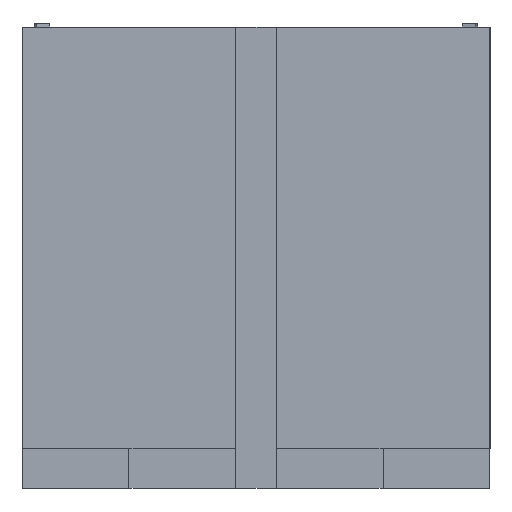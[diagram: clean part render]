
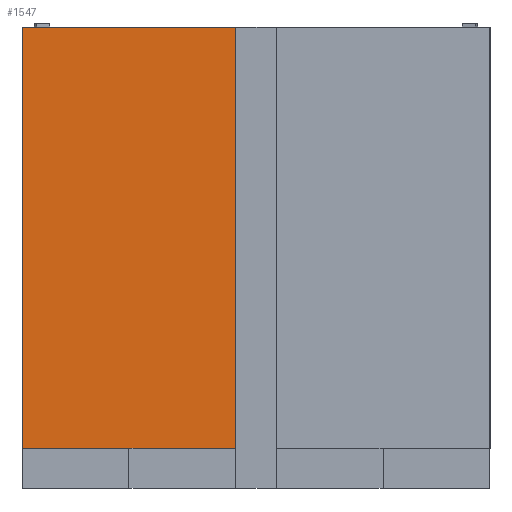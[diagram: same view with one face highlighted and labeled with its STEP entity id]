
A CAD part, left-side view. The second image highlights one B-rep face of the part: STEP entity #1547.
In plain terms, the highlighted planar face has unit normal (-1, 0, 0).
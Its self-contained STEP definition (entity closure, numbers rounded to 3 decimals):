
#219 = LINE ( 'NONE', #498, #1716 ) ;
#235 = ORIENTED_EDGE ( 'NONE', *, *, #565, .T. ) ;
#257 = ORIENTED_EDGE ( 'NONE', *, *, #2182, .T. ) ;
#318 = FACE_OUTER_BOUND ( 'NONE', #891, .T. ) ;
#487 = VECTOR ( 'NONE', #2897, 1000. ) ;
#498 = CARTESIAN_POINT ( 'NONE',  ( 105.508, 341.047, 761.321 ) ) ;
#565 = EDGE_CURVE ( 'NONE', #3262, #2401, #3337, .T. ) ;
#729 = CARTESIAN_POINT ( 'NONE',  ( 105.508, 544.247, 761.321 ) ) ;
#760 = AXIS2_PLACEMENT_3D ( 'NONE', #2132, #3247, #1937 ) ;
#770 = VECTOR ( 'NONE', #3149, 1000. ) ;
#891 = EDGE_LOOP ( 'NONE', ( #257, #2589, #2476, #235 ) ) ;
#1313 = LINE ( 'NONE', #1345, #487 ) ;
#1345 = CARTESIAN_POINT ( 'NONE',  ( 105.508, 544.247, 761.321 ) ) ;
#1348 = LINE ( 'NONE', #2616, #770 ) ;
#1486 = EDGE_CURVE ( 'NONE', #3262, #1639, #1313, .T. ) ;
#1506 = CARTESIAN_POINT ( 'NONE',  ( 105.508, 341.047, 761.321 ) ) ;
#1547 = ADVANCED_FACE ( 'NONE', ( #318 ), #3166, .F. ) ;
#1639 = VERTEX_POINT ( 'NONE', #1506 ) ;
#1716 = VECTOR ( 'NONE', #2266, 1000. ) ;
#1755 = DIRECTION ( 'NONE',  ( 0., 0., -1. ) ) ;
#1937 = DIRECTION ( 'NONE',  ( 0., 0., -1. ) ) ;
#2082 = CARTESIAN_POINT ( 'NONE',  ( 105.508, 341.047, 361.271 ) ) ;
#2132 = CARTESIAN_POINT ( 'NONE',  ( 105.508, 544.247, 761.321 ) ) ;
#2182 = EDGE_CURVE ( 'NONE', #2401, #2912, #1348, .T. ) ;
#2205 = VECTOR ( 'NONE', #1755, 1000. ) ;
#2266 = DIRECTION ( 'NONE',  ( 0., 0., -1. ) ) ;
#2401 = VERTEX_POINT ( 'NONE', #2627 ) ;
#2476 = ORIENTED_EDGE ( 'NONE', *, *, #1486, .F. ) ;
#2589 = ORIENTED_EDGE ( 'NONE', *, *, #3236, .F. ) ;
#2609 = CARTESIAN_POINT ( 'NONE',  ( 105.508, 544.247, 761.321 ) ) ;
#2616 = CARTESIAN_POINT ( 'NONE',  ( 105.508, 544.247, 361.271 ) ) ;
#2627 = CARTESIAN_POINT ( 'NONE',  ( 105.508, 544.247, 361.271 ) ) ;
#2897 = DIRECTION ( 'NONE',  ( 0., -1., 0. ) ) ;
#2912 = VERTEX_POINT ( 'NONE', #2082 ) ;
#3149 = DIRECTION ( 'NONE',  ( 0., -1., 0. ) ) ;
#3166 = PLANE ( 'NONE',  #760 ) ;
#3236 = EDGE_CURVE ( 'NONE', #1639, #2912, #219, .T. ) ;
#3247 = DIRECTION ( 'NONE',  ( 1., 0., 0. ) ) ;
#3262 = VERTEX_POINT ( 'NONE', #2609 ) ;
#3337 = LINE ( 'NONE', #729, #2205 ) ;
